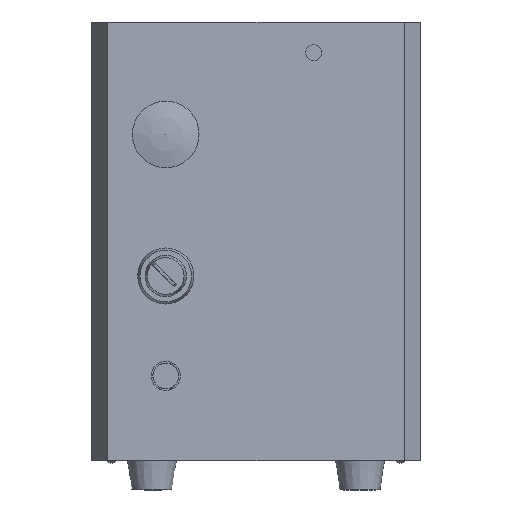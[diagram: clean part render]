
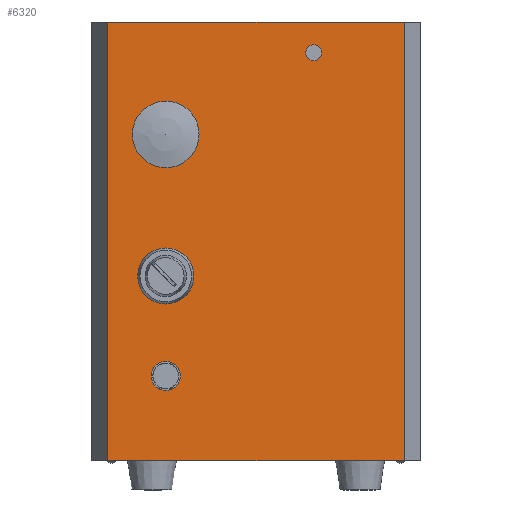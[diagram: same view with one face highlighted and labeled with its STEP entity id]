
A CAD part, front view. The second image highlights one B-rep face of the part: STEP entity #6320.
In plain terms, the highlighted planar face has unit normal (0, -1, 0).
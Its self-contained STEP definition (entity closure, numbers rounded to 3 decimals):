
#100=FACE_BOUND('',#684,.T.);
#101=FACE_BOUND('',#685,.T.);
#102=FACE_BOUND('',#686,.T.);
#103=FACE_BOUND('',#687,.T.);
#152=CIRCLE('',#6689,16.833);
#153=CIRCLE('',#6690,4.8);
#154=CIRCLE('',#6691,14.464);
#155=CIRCLE('',#6692,8.757);
#329=FACE_OUTER_BOUND('',#683,.T.);
#683=EDGE_LOOP('',(#4045,#4046,#4047,#4048));
#684=EDGE_LOOP('',(#4049));
#685=EDGE_LOOP('',(#4050));
#686=EDGE_LOOP('',(#4051));
#687=EDGE_LOOP('',(#4052));
#1089=LINE('',#9013,#1815);
#1090=LINE('',#9015,#1816);
#1091=LINE('',#9017,#1817);
#1092=LINE('',#9018,#1818);
#1815=VECTOR('',#7223,10.);
#1816=VECTOR('',#7224,10.);
#1817=VECTOR('',#7225,10.);
#1818=VECTOR('',#7226,10.);
#2541=VERTEX_POINT('',#9011);
#2542=VERTEX_POINT('',#9012);
#2543=VERTEX_POINT('',#9014);
#2544=VERTEX_POINT('',#9016);
#2545=VERTEX_POINT('',#9019);
#2546=VERTEX_POINT('',#9021);
#2547=VERTEX_POINT('',#9023);
#2548=VERTEX_POINT('',#9025);
#3142=EDGE_CURVE('',#2541,#2542,#1089,.T.);
#3143=EDGE_CURVE('',#2543,#2541,#1090,.T.);
#3144=EDGE_CURVE('',#2543,#2544,#1091,.T.);
#3145=EDGE_CURVE('',#2544,#2542,#1092,.T.);
#3146=EDGE_CURVE('',#2545,#2545,#152,.T.);
#3147=EDGE_CURVE('',#2546,#2546,#153,.T.);
#3148=EDGE_CURVE('',#2547,#2547,#154,.T.);
#3149=EDGE_CURVE('',#2548,#2548,#155,.T.);
#4045=ORIENTED_EDGE('',*,*,#3142,.F.);
#4046=ORIENTED_EDGE('',*,*,#3143,.F.);
#4047=ORIENTED_EDGE('',*,*,#3144,.T.);
#4048=ORIENTED_EDGE('',*,*,#3145,.T.);
#4049=ORIENTED_EDGE('',*,*,#3146,.T.);
#4050=ORIENTED_EDGE('',*,*,#3147,.T.);
#4051=ORIENTED_EDGE('',*,*,#3148,.T.);
#4052=ORIENTED_EDGE('',*,*,#3149,.T.);
#5851=PLANE('',#6688);
#6320=ADVANCED_FACE('',(#329,#100,#101,#102,#103),#5851,.T.);
#6688=AXIS2_PLACEMENT_3D('',#9010,#7221,#7222);
#6689=AXIS2_PLACEMENT_3D('',#9020,#7227,#7228);
#6690=AXIS2_PLACEMENT_3D('',#9022,#7229,#7230);
#6691=AXIS2_PLACEMENT_3D('',#9024,#7231,#7232);
#6692=AXIS2_PLACEMENT_3D('',#9026,#7233,#7234);
#7221=DIRECTION('center_axis',(0.,-1.,0.));
#7222=DIRECTION('ref_axis',(1.,0.,0.));
#7223=DIRECTION('',(1.,0.,0.));
#7224=DIRECTION('',(0.,0.,1.));
#7225=DIRECTION('',(1.,0.,0.));
#7226=DIRECTION('',(0.,0.,1.));
#7227=DIRECTION('center_axis',(0.,1.,0.));
#7228=DIRECTION('ref_axis',(1.,0.,0.));
#7229=DIRECTION('center_axis',(0.,1.,0.));
#7230=DIRECTION('ref_axis',(-1.,0.,0.));
#7231=DIRECTION('center_axis',(0.,1.,0.));
#7232=DIRECTION('ref_axis',(0.,0.,1.));
#7233=DIRECTION('center_axis',(0.,1.,0.));
#7234=DIRECTION('ref_axis',(-1.,0.,0.));
#9010=CARTESIAN_POINT('Origin',(99.,0.,149.35));
#9011=CARTESIAN_POINT('',(10.,0.,281.));
#9012=CARTESIAN_POINT('',(188.,0.,281.));
#9013=CARTESIAN_POINT('',(49.5,0.,281.));
#9014=CARTESIAN_POINT('',(10.,0.,17.7));
#9015=CARTESIAN_POINT('',(10.,0.,83.525));
#9016=CARTESIAN_POINT('',(188.,0.,17.7));
#9017=CARTESIAN_POINT('',(49.5,0.,17.7));
#9018=CARTESIAN_POINT('',(188.,0.,83.525));
#9019=CARTESIAN_POINT('',(27.967,0.,128.5));
#9020=CARTESIAN_POINT('Origin',(44.8,0.,128.5));
#9021=CARTESIAN_POINT('',(138.5,0.,262.5));
#9022=CARTESIAN_POINT('Origin',(133.7,0.,262.5));
#9023=CARTESIAN_POINT('',(44.8,0.,199.036));
#9024=CARTESIAN_POINT('Origin',(44.8,0.,213.5));
#9025=CARTESIAN_POINT('',(53.557,0.,68.5));
#9026=CARTESIAN_POINT('Origin',(44.8,0.,68.5));
